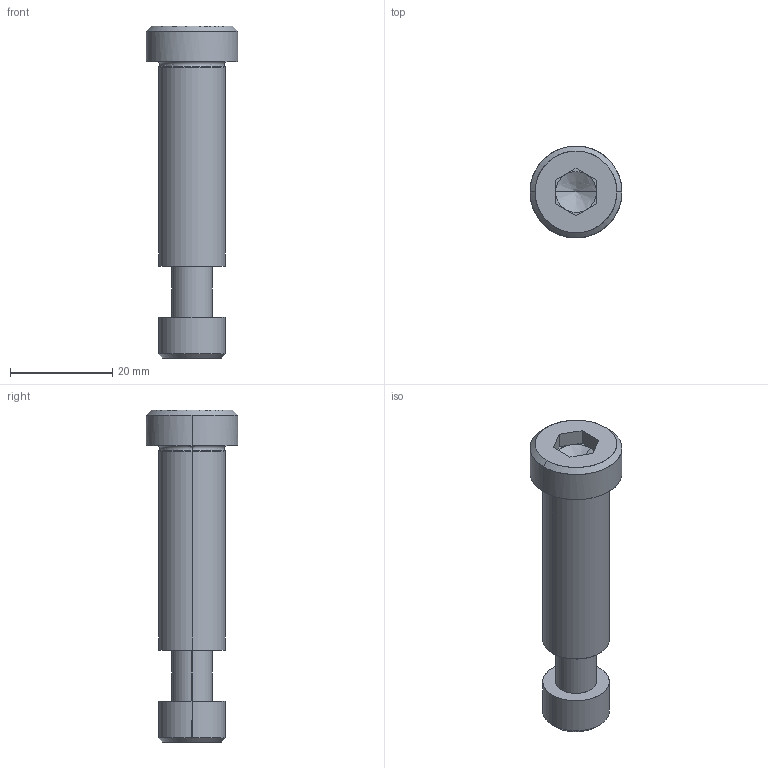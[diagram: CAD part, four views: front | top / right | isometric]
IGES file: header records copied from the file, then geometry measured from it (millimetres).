
Global section: file name: E:\UnigraphicsGraphicData\MISUMI_PRESS-PARTS\IGES\3d_sbtc13-40_05091_r00.igs; native system: NX V5.0; preprocessor: UGS NX IGES V5.0; author: MISUMI; date: 20110105.162445; units: millimetre
Bounding box: 18 x 18 x 65 mm (x, y, z)
Surface area: 4292.8 mm2 (no closed solid volume)
Topology: 0 solids, 0 shells, 52 faces, 286 edges, 282 vertices
Faces by surface type: bspline 52
